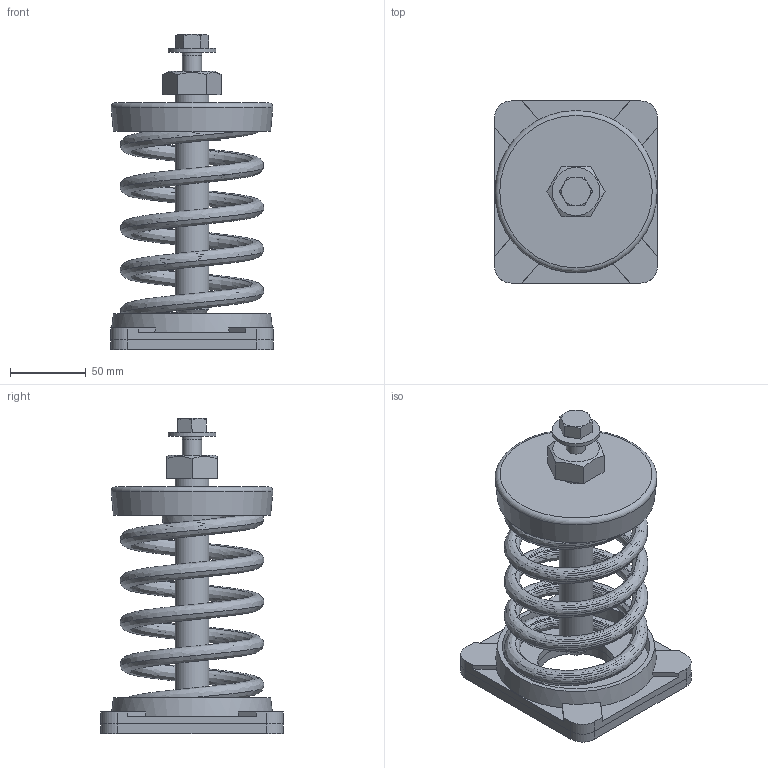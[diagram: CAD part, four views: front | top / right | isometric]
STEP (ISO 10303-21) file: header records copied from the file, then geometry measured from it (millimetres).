
FILE_DESCRIPTION(/* description */ (''),/* implementation_level */ '2;1');
FILE_NAME(/* name */ 'C:\001_Work\Designs\SLF ASSEMBLIES\SLF-105.stp',/* time_stamp */ '2016-01-10T14:50:58-05:00',/* author */ ('rramoutar'),/* organization */ ('Mason Industries Inc.'),/* preprocessor_version */ 'ST-DEVELOPER v15.6',/* originating_system */ 'Autodesk Inventor 2015',/* authorisation */ '');
FILE_SCHEMA (('CONFIG_CONTROL_DESIGN'));
Length unit declared in the file: inch
Products named in the file (1): SLF-105
Bounding box: 107.95 x 120.65 x 208.64 mm (x, y, z)
Volume: 337710 mm3; surface area: 191763 mm2
Topology: 7 solids, 7 shells, 232 faces, 587 edges, 388 vertices
Faces by surface type: plane 156, bspline 30, cylinder 29, cone 14, torus 3
Full cylindrical faces by diameter (mm): 9.525 x8, 12.7 x2, 13.487 x1, 19.05 x1, 22.225 x2, 31.75 x1, 50.8 x2, 97.631 x2
Entity records: 15182 total; most frequent: CARTESIAN_POINT 9679, ORIENTED_EDGE 1088, DIRECTION 951, EDGE_CURVE 544, VERTEX_POINT 375, LINE 363, VECTOR 363, EDGE_LOOP 299
